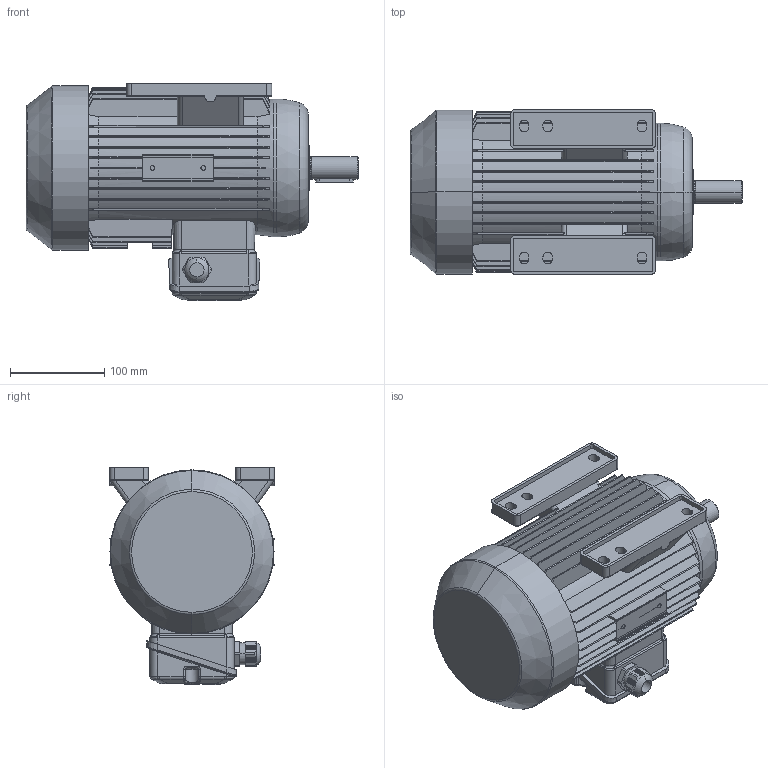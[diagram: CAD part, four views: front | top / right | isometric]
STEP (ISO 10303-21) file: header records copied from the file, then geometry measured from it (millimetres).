
FILE_DESCRIPTION (( 'STEP AP214' ), '1' );
FILE_NAME ('MAP90S2A IM1041.STEP', '2020-12-21T14:39:14', ( '' ), ( '' ), 'SwSTEP 2.0', 'SolidWorks 2018', '' );
FILE_SCHEMA (( 'AUTOMOTIVE_DESIGN' ));
Length unit declared in the file: millimetre
Products named in the file (1): MAP90S2A IM1041
Bounding box: 352 x 174.5 x 231 mm (x, y, z)
Volume: 6087237.5 mm3; surface area: 445485.3 mm2
Topology: 2 solids, 8 shells, 1276 faces, 3387 edges, 2153 vertices
Faces by surface type: plane 558, cylinder 305, bspline 188, cone 136, torus 85, sphere 4
Entity records: 52347 total; most frequent: CARTESIAN_POINT 22781, ORIENTED_EDGE 6762, DIRECTION 5414, EDGE_CURVE 3381, VERTEX_POINT 2153, AXIS2_PLACEMENT_3D 1916, VECTOR 1582, LINE 1582
